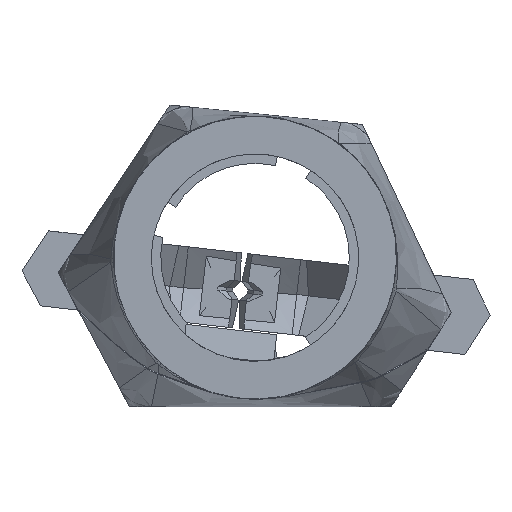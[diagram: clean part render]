
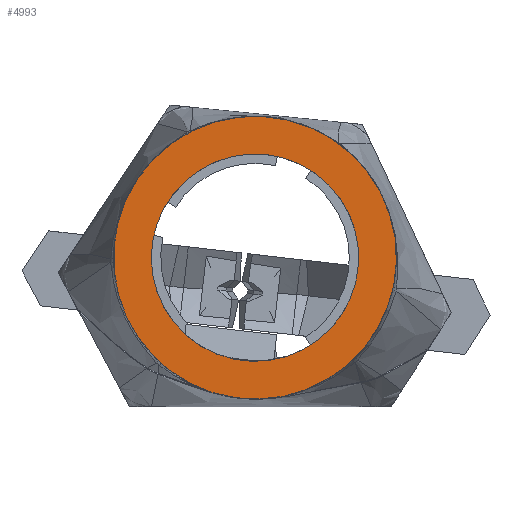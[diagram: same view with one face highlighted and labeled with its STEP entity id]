
A CAD part, front view. The second image highlights one B-rep face of the part: STEP entity #4993.
In plain terms, the highlighted planar face has unit normal (0, -1, 0).
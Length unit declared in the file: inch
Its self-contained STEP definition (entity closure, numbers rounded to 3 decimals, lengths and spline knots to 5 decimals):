
#295=FACE_BOUND('',#810,.T.);
#490=FACE_OUTER_BOUND('',#809,.T.);
#809=EDGE_LOOP('',(#4073));
#810=EDGE_LOOP('',(#4074));
#1018=CIRCLE('',#5329,0.9375);
#1019=CIRCLE('',#5331,0.6875);
#2287=VERTEX_POINT('',#8160);
#2304=VERTEX_POINT('',#8372);
#2911=EDGE_CURVE('',#2287,#2287,#1018,.T.);
#2929=EDGE_CURVE('',#2304,#2304,#1019,.T.);
#4073=ORIENTED_EDGE('',*,*,#2911,.T.);
#4074=ORIENTED_EDGE('',*,*,#2929,.T.);
#4758=PLANE('',#5330);
#4993=ADVANCED_FACE('',(#490,#295),#4758,.F.);
#5329=AXIS2_PLACEMENT_3D('',#8161,#6185,#6186);
#5330=AXIS2_PLACEMENT_3D('',#8371,#6187,#6188);
#5331=AXIS2_PLACEMENT_3D('',#8373,#6189,#6190);
#6185=DIRECTION('center_axis',(0.,-1.,0.));
#6186=DIRECTION('ref_axis',(1.,0.,0.));
#6187=DIRECTION('center_axis',(0.,1.,0.));
#6188=DIRECTION('ref_axis',(0.,0.,1.));
#6189=DIRECTION('center_axis',(0.,1.,0.));
#6190=DIRECTION('ref_axis',(1.,0.,0.));
#8160=CARTESIAN_POINT('',(-0.85039,-2.,-0.39463));
#8161=CARTESIAN_POINT('Origin',(0.,-2.,0.));
#8371=CARTESIAN_POINT('Origin',(0.,-2.,0.));
#8372=CARTESIAN_POINT('',(-0.53585,-2.,-0.43072));
#8373=CARTESIAN_POINT('Origin',(0.,-2.,0.));
